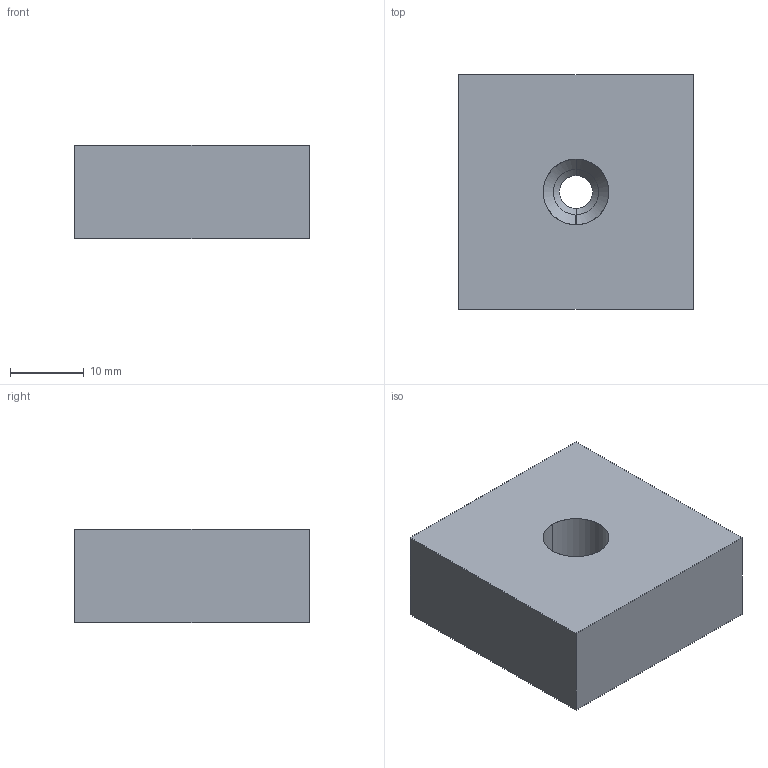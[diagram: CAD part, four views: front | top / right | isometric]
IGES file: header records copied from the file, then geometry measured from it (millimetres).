
Start section: SolidWorks IGES file using analytic representation for surfaces
Global section: file name: X:\11_SW2020-Inv2020\00_全2021-11新製品まで\g\GP-128S-C\gp-128s-c.IGS; native system: SolidWorks 2020; preprocessor: SolidWorks 2020; author: ImaoCorp; date: 211026.094402; units: millimetre
Bounding box: 31.75 x 31.75 x 12.7 mm (x, y, z)
Surface area: 3896.8 mm2 (no closed solid volume)
Topology: 0 solids, 0 shells, 14 faces, 120 edges, 120 vertices
Faces by surface type: revolution 8, bspline 6
